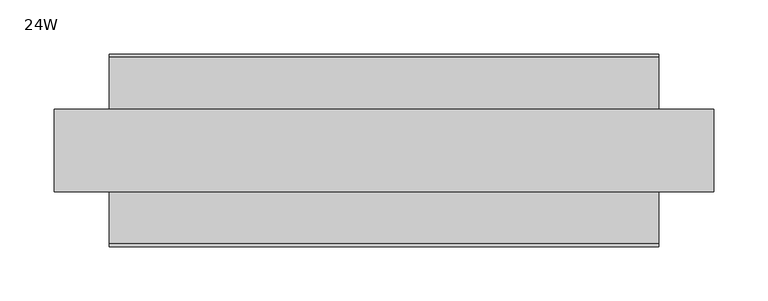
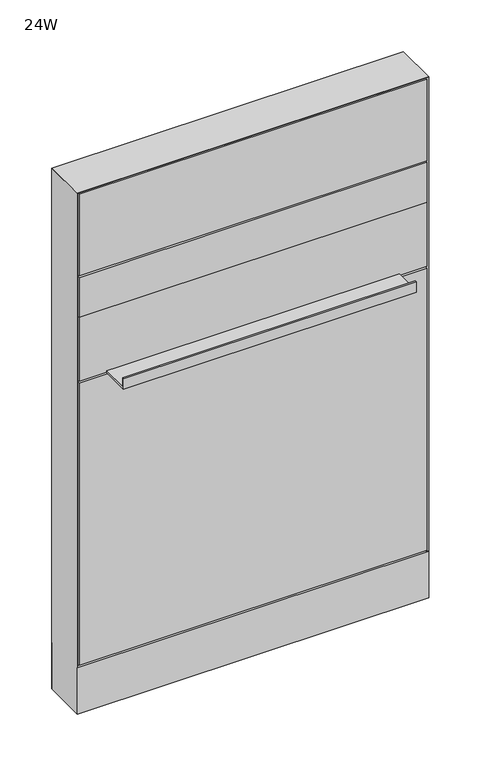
"""IFC4 building model written with IfcOpenShell, lengths in millimetres: furniture geometry, Steelcase - Montage - Frame - 38H - Enhanced Standard - Base and Desk-Height Cavity : 24W."""

from ifc_helpers import new_model, si_unit, point, frame, frame_2d, origin, origin_with_axes, place, context, project, spatial, polyline, circle_curve, trimmed, segment, composite_curve, outline, extrude, faceted_brep, source, transform, mapped, element, save


def furniture_24w_bfdd7e8e(model_context):
    return source(origin(), model_context, "Body", "SolidModel", [
        extrude(outline(polyline([(3.175, 31.7500194), (3.175, 38.1000194), (606.425, 38.1000194), (606.425, 31.7500194), (3.175, 31.7500194)])), frame((0.0, 0.0, 92.075), z_axis=(0.0, 0.0, 1.0), x_axis=(1.0, 0.0, 0.0)), (0.0, 0.0, 1.0), 517.525),
        extrude(outline(polyline([(88.8960768, 612.775), (38.0960752, 612.775), (38.0960752, 615.315), (86.3560768, 615.315), (86.3560768, 631.825), (88.8960768, 631.825), (88.8960768, 612.775)])), frame((50.8000015, 0.0, 0.0), z_axis=(1.0, 0.0, 0.0), x_axis=(0.0, 1.0, 0.0)), (0.0, 0.0, 1.0), 507.999997),
        extrude(outline(polyline([(3.175, 31.7460752), (3.175, 38.0960752), (606.425, 38.0960752), (606.425, 31.7460752), (3.175, 31.7460752)])), frame((0.0, 0.0, 730.2499516), z_axis=(0.0, 0.0, 1.0), x_axis=(1.0, 0.0, 0.0)), (0.0, 0.0, 1.0), 73.0250484),
        extrude(outline(polyline([(3.175, 31.7460752), (3.175, 38.0960752), (606.425, 38.0960752), (606.425, 31.7460752), (3.175, 31.7460752)])), frame((0.0, 0.0, 612.775), z_axis=(0.0, 0.0, 1.0), x_axis=(1.0, 0.0, 0.0)), (0.0, 0.0, 1.0), 117.4749516),
        extrude(outline(polyline([(3.175, 31.7500194), (3.175, 38.1000194), (606.425, 38.1000194), (606.425, 31.7500194), (3.175, 31.7500194)])), frame((0.0, 0.0, 806.45), z_axis=(0.0, 0.0, 1.0), x_axis=(1.0, 0.0, 0.0)), (0.0, 0.0, 1.0), 149.225),
        extrude(outline(polyline([(3.175, -31.7500194), (606.425, -31.7500194), (606.425, -38.1000194), (3.175, -38.1000194), (3.175, -31.7500194)])), frame((0.0, 0.0, 92.075), z_axis=(0.0, 0.0, 1.0), x_axis=(1.0, 0.0, 0.0)), (0.0, 0.0, 1.0), 517.525),
        extrude(outline(polyline([(-88.8960768, 612.775), (-88.8960768, 631.825), (-86.3560768, 631.825), (-86.3560768, 615.315), (-38.0960752, 615.315), (-38.0960752, 612.775), (-88.8960768, 612.775)])), frame((50.8000015, 0.0, 0.0), z_axis=(1.0, 0.0, 0.0), x_axis=(0.0, 1.0, 0.0)), (0.0, 0.0, 1.0), 507.999997),
        extrude(outline(polyline([(3.175, -31.7460752), (606.425, -31.7460752), (606.425, -38.0960752), (3.175, -38.0960752), (3.175, -31.7460752)])), frame((0.0, 0.0, 730.2499516), z_axis=(0.0, 0.0, 1.0), x_axis=(1.0, 0.0, 0.0)), (0.0, 0.0, 1.0), 73.0250484),
        extrude(outline(polyline([(3.175, -31.7460752), (606.425, -31.7460752), (606.425, -38.0960752), (3.175, -38.0960752), (3.175, -31.7460752)])), frame((0.0, 0.0, 612.775), z_axis=(0.0, 0.0, 1.0), x_axis=(1.0, 0.0, 0.0)), (0.0, 0.0, 1.0), 117.4749516),
        extrude(outline(polyline([(3.175, -31.7500194), (606.425, -31.7500194), (606.425, -38.1000194), (3.175, -38.1000194), (3.175, -31.7500194)])), frame((0.0, 0.0, 806.45), z_axis=(0.0, 0.0, 1.0), x_axis=(1.0, 0.0, 0.0)), (0.0, 0.0, 1.0), 149.225),
        extrude(outline(polyline([(603.2499879, 31.749953), (603.2499879, -31.7499985), (6.35, -31.7499985), (6.35, 31.749953), (603.2499879, 31.749953)])), frame((0.0, 0.0, 809.6250242), z_axis=(0.0, 0.0, 1.0), x_axis=(1.0, 0.0, 0.0)), (0.0, 0.0, 1.0), 142.8749273),
        extrude(outline(polyline([(603.2499879, 31.749953), (603.2499879, -31.7499985), (6.35, -31.7499985), (6.35, 31.749953), (603.2499879, 31.749953)])), frame((0.0, 0.0, 619.125), z_axis=(0.0, 0.0, 1.0), x_axis=(1.0, 0.0, 0.0)), (0.0, 0.0, 1.0), 177.8000242),
        extrude(outline(polyline([(603.2499879, 31.7500016), (603.2499879, -31.7499985), (6.35, -31.7499985), (6.35, 31.7500016), (603.2499879, 31.7500016)])), frame((0.0, 0.0, 88.899997), z_axis=(0.0, 0.0, 1.0), x_axis=(1.0, 0.0, 0.0)), (0.0, 0.0, 1.0), 517.525003),
        extrude(outline(polyline([(6.350003, -31.7499985), (603.249997, -31.7499985), (609.6, -38.1000015), (0.0, -38.1000015), (6.350003, -31.7499985)])), frame((0.0, 0.0, 4.064), z_axis=(0.0, 0.0, 1.0), x_axis=(1.0, 0.0, 0.0)), (0.0, 0.0, 1.0), 84.835997),
        extrude(outline(polyline([(6.3500002, 31.7500017), (0.0, 38.1000015), (609.6, 38.1000015), (603.2500002, 31.7500017), (6.3500002, 31.7500017)])), frame((0.0, 0.0, 4.064), z_axis=(0.0, 0.0, 1.0), x_axis=(1.0, 0.0, 0.0)), (0.0, 0.0, 1.0), 84.835997),
        faceted_brep([(609.6, -38.1000015, 958.85), (0.0, -38.1000015, 958.85), (6.3500484, -31.749953, 952.4999516), (603.2499516, -31.749953, 952.4999516), (6.3500484, 31.749953, 952.4999516), (603.2499516, 31.749953, 952.4999516), (0.0, 38.1000015, 958.85), (609.6, 38.1000015, 958.85)], [[[0, 1, 2, 3]], [[3, 2, 4, 5]], [[6, 7, 5, 4]], [[1, 0, 7, 6]], [[2, 1, 6, 4]], [[0, 3, 5, 7]]]),
        extrude(outline(composite_curve([segment(trimmed(circle_curve(frame_2d((44.45, 0.0)), 15.24), [point((29.21, 0.0))], [point((59.69, 0.0))], False, "CARTESIAN"), True, "CONTINUOUS"), segment(trimmed(circle_curve(frame_2d((44.45, 0.0)), 15.24), [point((59.69, 0.0))], [point((29.21, 0.0))], False, "CARTESIAN"), True, "CONTINUOUS")], self_intersect=False)), origin_with_axes(), (0.0, 0.0, 1.0), 4.064),
        extrude(outline(composite_curve([segment(trimmed(circle_curve(frame_2d((565.15, 0.0)), 15.24), [point((549.91, 0.0))], [point((580.39, 0.0))], False, "CARTESIAN"), True, "CONTINUOUS"), segment(trimmed(circle_curve(frame_2d((565.15, 0.0)), 15.24), [point((580.39, 0.0))], [point((549.91, 0.0))], False, "CARTESIAN"), True, "CONTINUOUS")], self_intersect=False)), origin_with_axes(), (0.0, 0.0, 1.0), 4.064),
        faceted_brep([(609.6, -38.1000106, 4.064), (609.6, 38.1000015, 4.064), (609.6, 38.1000015, 958.85), (609.6, -38.1000106, 958.8499637), (0.0, 38.1000015, 4.064), (0.0, -38.1000015, 4.064), (0.0, -38.1000015, 958.85), (0.0, 38.1000015, 958.85), (603.2499879, 31.7500017, 606.425), (6.35, 31.7500017, 606.425), (6.3499998, 31.7500017, 619.125), (603.2499879, 31.7500017, 619.125), (6.35, -31.7499985, 619.125), (603.2499879, -31.7499985, 619.125), (6.350003, -31.7499985, 606.425), (603.2499879, -31.7499985, 606.425), (603.2499879, 31.7500017, 796.9250242), (6.35, 31.7500017, 796.9250242), (6.3499998, 31.7500017, 809.6250242), (603.2499879, 31.7500017, 809.6250242), (6.35, -31.7499985, 809.6250242), (603.2499879, -31.7499985, 809.6250242), (6.350003, -31.7499985, 796.9250242), (603.2499879, -31.7499985, 796.9250242), (6.35, 31.7500015, 4.064), (6.35, -31.7500015, 4.064), (603.2499879, 31.7499894, 4.064), (603.2499879, -31.7499985, 4.064), (6.35, 31.7500015, 952.5), (6.35, -31.7500015, 952.5), (603.2499879, -31.7499985, 952.4999516), (603.2499879, 31.7499899, 952.4999516)], [[[0, 1, 2, 3]], [[4, 5, 6, 7]], [[8, 9, 10, 11]], [[11, 10, 12, 13]], [[13, 12, 14, 15]], [[9, 8, 15, 14]], [[16, 17, 18, 19]], [[19, 18, 20, 21]], [[21, 20, 22, 23]], [[17, 16, 23, 22]], [[24, 25, 5, 4]], [[26, 1, 0, 27]], [[24, 4, 7, 28, 18, 17, 10, 9]], [[5, 25, 14, 12, 22, 20, 29, 6]], [[25, 24, 9, 14]], [[10, 17, 22, 12]], [[20, 18, 28, 29]], [[26, 27, 15, 8]], [[16, 11, 13, 23]], [[19, 21, 30, 31]], [[27, 0, 3, 30, 21, 23, 13, 15]], [[1, 26, 8, 11, 16, 19, 31, 2]], [[7, 6, 29, 28]], [[3, 2, 31, 30]]]),
    ])


if __name__ == "__main__":
    model = new_model("IFC4")
    model_context = context("Model", 3, world=origin())
    ifc_project = project(units=[si_unit("LENGTHUNIT", "METRE", prefix="MILLI")], contexts=[model_context])
    site = spatial("IfcSite", under=ifc_project)
    building = spatial("IfcBuilding", under=site)
    placement = place(None, origin())
    furniture_24w_shape = furniture_24w_bfdd7e8e(model_context)
    element("IfcFurniture", 1, ObjectType="Steelcase - Montage - Frame - 38H - Enhanced Standard - Base and Desk-Height Cavity : 24W", at=placement, inside=building, context=model_context, shape_type="MappedRepresentation", body=[
        mapped(furniture_24w_shape, transform((0.0, 0.0, 0.0), x_axis=(1.0, 0.0, 0.0), y_axis=(0.0, 1.0, 0.0), z_axis=(0.0, 0.0, 1.0))),
    ])
    save(model, "model.ifc")
